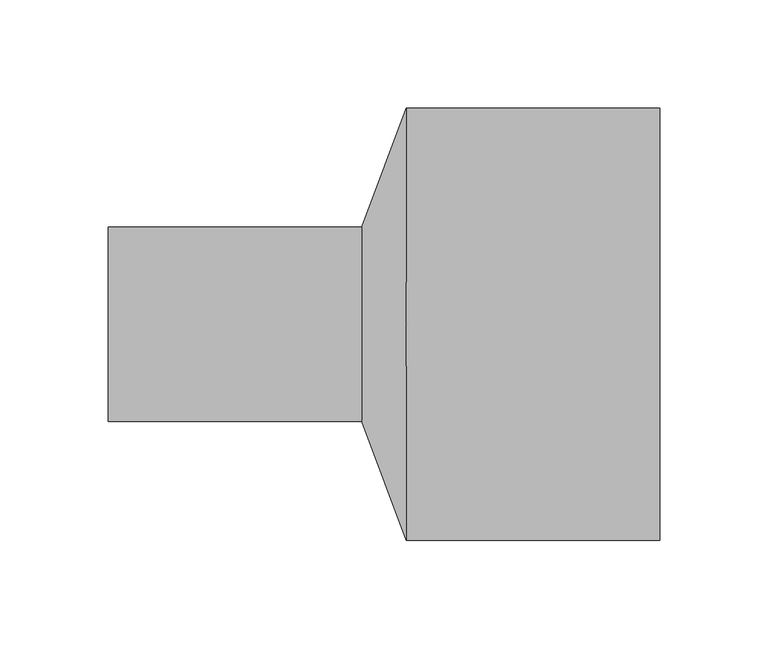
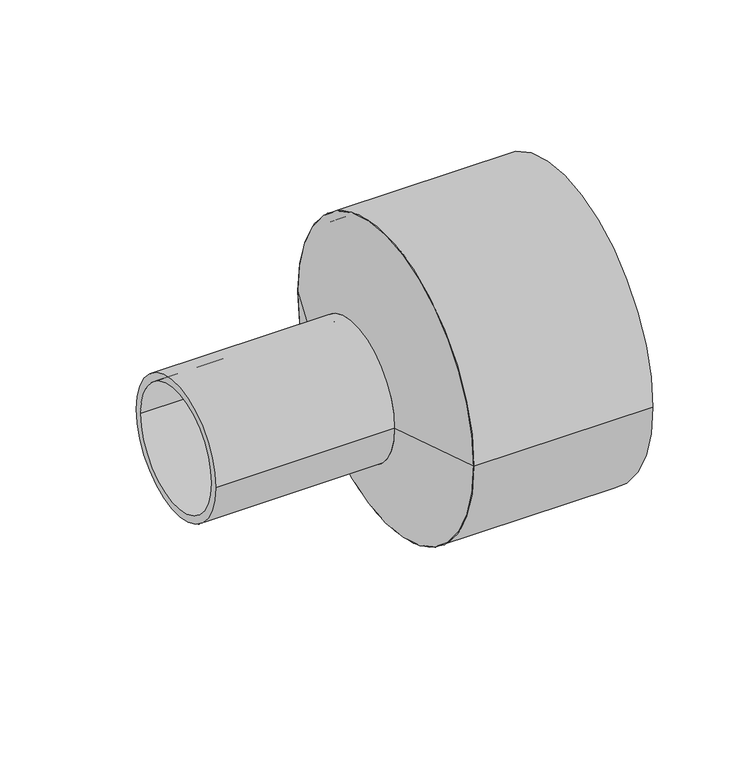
"""IFC4 building model written with IfcOpenShell, lengths in millimetres: pipe fitting geometry, EGB_VASEN_ PPR_Manguito reductor a tope WXRB110 : Manguito reductor a tope WXRB110."""

from ifc_helpers import new_model, si_unit, point, frame, origin, origin_2d, place, context, project, spatial, polyline, circle_curve, trimmed, segment, composite_curve, outline, extrude, source, transform, mapped, element, save
from ifc_brep_helpers import plane_surface, revolved_surface, advanced_brep


def pipe_fitting_cbb1d337(model_context):
    return source(origin(), model_context, "Body", "SolidModel", [
        extrude(outline(composite_curve([segment(trimmed(circle_curve(origin_2d(), 100.0), [point((-100.0, 0.0))], [point((100.0, 0.0))], False, "CARTESIAN"), True, "CONTINUOUS"), segment(trimmed(circle_curve(origin_2d(), 100.0), [point((100.0, 0.0))], [point((-100.0, 0.0))], False, "CARTESIAN"), True, "CONTINUOUS")], self_intersect=False), holes=[composite_curve([segment(trimmed(circle_curve(origin_2d(), 95.0), [point((-95.0, 0.0))], [point((95.0, 0.0))], True, "CARTESIAN"), True, "CONTINUOUS"), segment(trimmed(circle_curve(origin_2d(), 95.0), [point((95.0, 0.0))], [point((-95.0, 0.0))], True, "CARTESIAN"), True, "CONTINUOUS")], self_intersect=False)]), frame((10.2, 0.0, 0.0), z_axis=(1.0, 0.0, 0.0), x_axis=(0.0, 1.0, 0.0)), (0.0, 0.0, 1.0), 117.3),
        extrude(outline(composite_curve([segment(trimmed(circle_curve(origin_2d(), 45.0), [point((-45.0, 0.0))], [point((45.0, 0.0))], False, "CARTESIAN"), True, "CONTINUOUS"), segment(trimmed(circle_curve(origin_2d(), 45.0), [point((45.0, 0.0))], [point((-45.0, 0.0))], False, "CARTESIAN"), True, "CONTINUOUS")], self_intersect=False), holes=[composite_curve([segment(trimmed(circle_curve(origin_2d(), 40.0), [point((-40.0, 0.0))], [point((40.0, 0.0))], True, "CARTESIAN"), True, "CONTINUOUS"), segment(trimmed(circle_curve(origin_2d(), 40.0), [point((40.0, 0.0))], [point((-40.0, 0.0))], True, "CARTESIAN"), True, "CONTINUOUS")], self_intersect=False)]), frame((-127.5, 0.0, 0.0), z_axis=(1.0, 0.0, 0.0), x_axis=(0.0, 1.0, 0.0)), (0.0, 0.0, 1.0), 117.3),
        advanced_brep(
        [(10.2, -100.0, 0.0), (10.2, 100.0, 0.0), (-10.2, -45.0, 0.0), (-10.2, 45.0, 0.0)],
        [
            (0, 1, circle_curve(frame((10.2, 0.0, 0.0), z_axis=(1.0, 0.0, 0.0), x_axis=(0.0, -1.0, 0.0)), 100.0)),
            (1, 0, circle_curve(frame((10.2, 0.0, 0.0), z_axis=(1.0, 0.0, 0.0), x_axis=(0.0, 1.0, 0.0)), 100.0)),
            (2, 3, circle_curve(frame((-10.2, 0.0, 0.0), z_axis=(-1.0, 0.0, 0.0), x_axis=(0.0, 1.0, 0.0)), 45.0)),
            (3, 2, circle_curve(frame((-10.2, 0.0, 0.0), z_axis=(-1.0, 0.0, 0.0), x_axis=(0.0, -1.0, 0.0)), 45.0)),
            (3, 1),
            (0, 2),
        ],
        [
            plane_surface(frame((10.2, 0.0, 0.0), z_axis=(1.0, 0.0, 0.0), x_axis=(0.0, 0.0, -1.0))),
            plane_surface(frame((-10.2, 0.0, 0.0), z_axis=(-1.0, 0.0, 0.0), x_axis=(0.0, 0.0, -1.0))),
            revolved_surface(polyline([(-10.2, 45.00000001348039, 0.0), (10.2, 100.0, 0.0)]), (-26.8909091, 0.0, 0.0), (1.0, 0.0, 0.0)),
            revolved_surface(polyline([(-10.2, -45.00000001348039, 0.0), (10.2, -100.0, 0.0)]), (-26.8909091, 0.0, 0.0), (1.0, 0.0, 0.0)),
        ],
        [
            (0, [[1, 2]]),
            (1, [[3, 4]]),
            (2, [[-4, 5, -1, 6]]),
            (3, [[-3, -6, -2, -5]]),
        ],
    ),
    ])


if __name__ == "__main__":
    model = new_model("IFC4")
    model_context = context("Model", 3, world=origin())
    ifc_project = project(units=[si_unit("LENGTHUNIT", "METRE", prefix="MILLI")], contexts=[model_context])
    site = spatial("IfcSite", under=ifc_project)
    building = spatial("IfcBuilding", under=site)
    placement = place(None, origin())
    pipe_fitting_shape = pipe_fitting_cbb1d337(model_context)
    element("IfcPipeFitting", 1, ObjectType="EGB_VASEN_ PPR_Manguito reductor a tope WXRB110 : Manguito reductor a tope WXRB110", at=placement, inside=building, context=model_context, shape_type="MappedRepresentation", body=[
        mapped(pipe_fitting_shape, transform((0.0, 0.0, 0.0), x_axis=(1.0, 0.0, 0.0), y_axis=(0.0, 1.0, 0.0), z_axis=(0.0, 0.0, 1.0))),
    ])
    save(model, "model.ifc")
